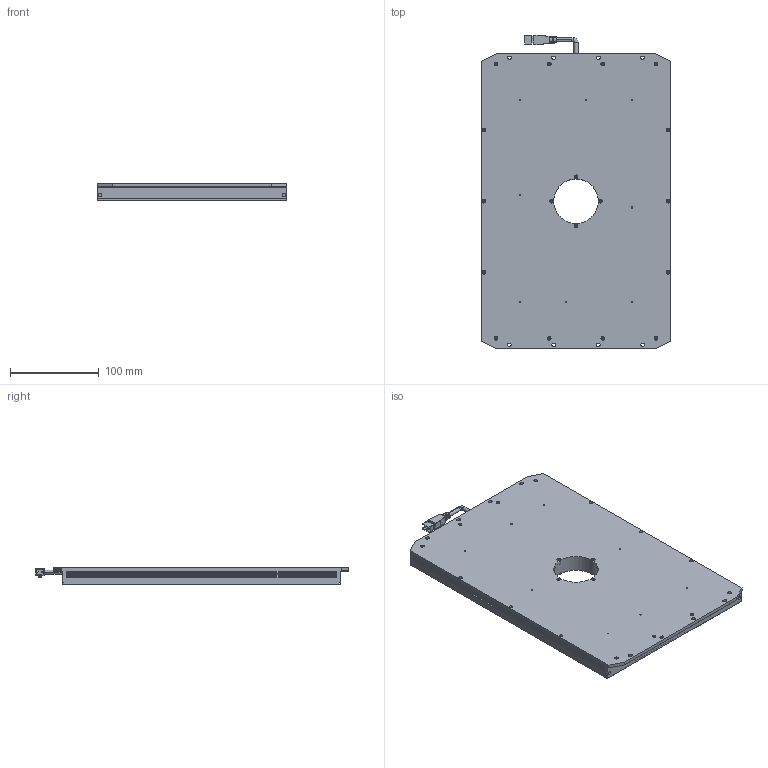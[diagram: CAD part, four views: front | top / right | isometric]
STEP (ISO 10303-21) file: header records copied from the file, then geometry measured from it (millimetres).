
FILE_DESCRIPTION((''),'2;1');
FILE_NAME('LS-LBES-H-300-200-X2','2022-11-04T17:12:08',('LumaSpec Vision'),('LumaSpec Vision'),'CREO PARAMETRIC BY PTC INC, 2020044','CREO PARAMETRIC BY PTC INC, 2020044','');
FILE_SCHEMA(('AUTOMOTIVE_DESIGN { 1 0 10303 214 1 1 1 1 }'));
Products named in the file (1): PRT0001
Bounding box: 213 x 352.75 x 19 mm (x, y, z)
Volume: 1243679.6 mm3; surface area: 168425.1 mm2
Topology: 1 solids, 48 shells, 2079 faces, 4904 edges, 2959 vertices
Faces by surface type: plane 1259, cylinder 541, cone 177, torus 86, sphere 8, bspline 8
Entity records: 60448 total; most frequent: CARTESIAN_POINT 11691, DIRECTION 10019, ORIENTED_EDGE 9760, EDGE_CURVE 4880, AXIS2_PLACEMENT_3D 3418, VECTOR 3183, LINE 3183, VERTEX_POINT 2959
